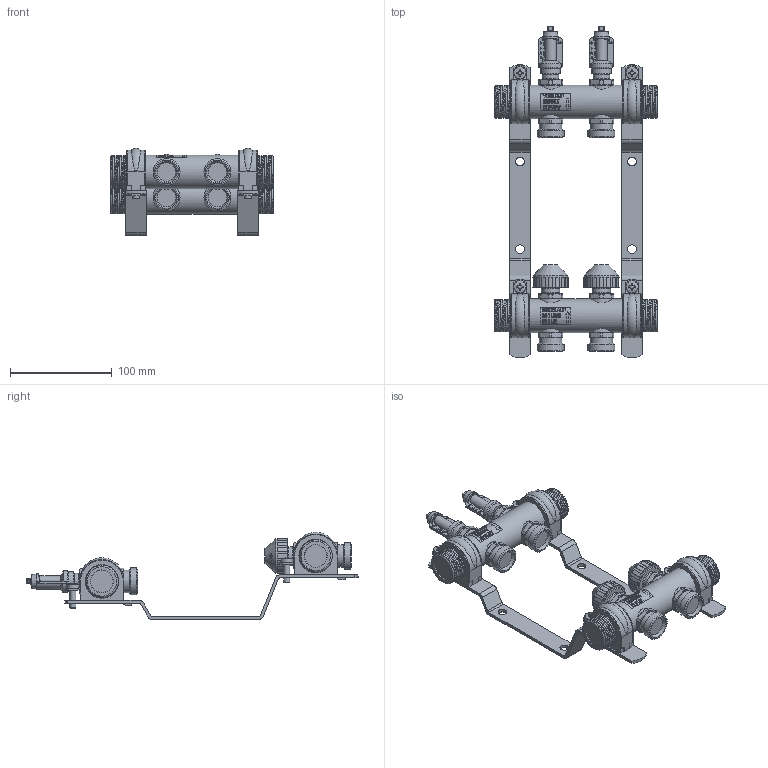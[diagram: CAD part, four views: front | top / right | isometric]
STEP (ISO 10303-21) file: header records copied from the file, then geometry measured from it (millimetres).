
FILE_DESCRIPTION((''),'2;1');
FILE_NAME('C:\Users\duckj\Desktop\10026184.stp','2017-04-18T15:24:14',('duckj'),(''),'Autodesk Inventor 2013','Autodesk Inventor 2013','');
FILE_SCHEMA(('CONFIG_CONTROL_DESIGN'));
Length unit declared in the file: millimetre
Products named in the file (4): 18042017_007; 18042017_009; 18042017_010; 26102016_005
Assembly tree (4 placements, depth 2):
  18042017_007
    18042017_009
    18042017_010
    26102016_005  x2
Bounding box: 160 x 325.94 x 85.7 mm (x, y, z)
Volume: 284233.5 mm3; surface area: 119622.6 mm2
Topology: 11 solids, 12 shells, 1846 faces, 4918 edges, 3233 vertices
Faces by surface type: plane 1005, bspline 338, cylinder 323, cone 144, torus 32, sphere 4
Full cylindrical faces by diameter (mm): 3 x2, 6 x8, 8.5 x4, 12 x4, 15 x2, 15.5 x2, 16.5 x2, 18 x2, 19.5 x2, 21.8 x8, 22 x16, 26.441 x4, 33 x6, 33.7 x2
Entity records: 112880 total; most frequent: CARTESIAN_POINT 72102, ORIENTED_EDGE 8808, DIRECTION 6767, EDGE_CURVE 4404, VERTEX_POINT 2935, VECTOR 2265, LINE 2265, AXIS2_PLACEMENT_3D 2251
